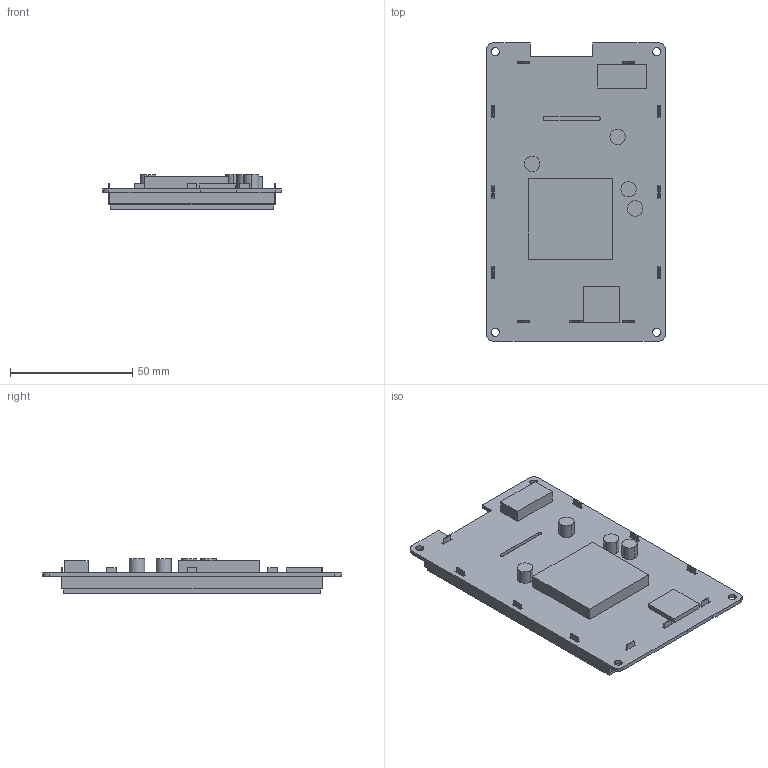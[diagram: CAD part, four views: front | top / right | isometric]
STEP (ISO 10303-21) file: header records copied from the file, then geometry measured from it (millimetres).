
FILE_DESCRIPTION((''),'2;1');
FILE_NAME('3D-DMG80480T043-01WTC','2022-09-27T',('Administrator'),(''),'PRO/ENGINEER BY PARAMETRIC TECHNOLOGY CORPORATION, 2011310','PRO/ENGINEER BY PARAMETRIC TECHNOLOGY CORPORATION, 2011310','');
FILE_SCHEMA(('CONFIG_CONTROL_DESIGN','SHAPE_APPEARANCE_LAYERS_GROUPS'));
Length unit declared in the file: millimetre
Products named in the file (1): 3D-DMG80480T043-01WTC
Bounding box: 73.15 x 121.92 x 14.2 mm (x, y, z)
Volume: 55819.5 mm3; surface area: 51221.3 mm2
Topology: 1 solids, 2 shells, 222 faces, 652 edges, 420 vertices
Faces by surface type: plane 200, cylinder 22
Entity records: 8269 total; most frequent: ORIENTED_EDGE 1304, CARTESIAN_POINT 1295, DIRECTION 1142, EDGE_CURVE 652, VECTOR 608, LINE 608, VERTEX_POINT 420, AXIS2_PLACEMENT_3D 267
